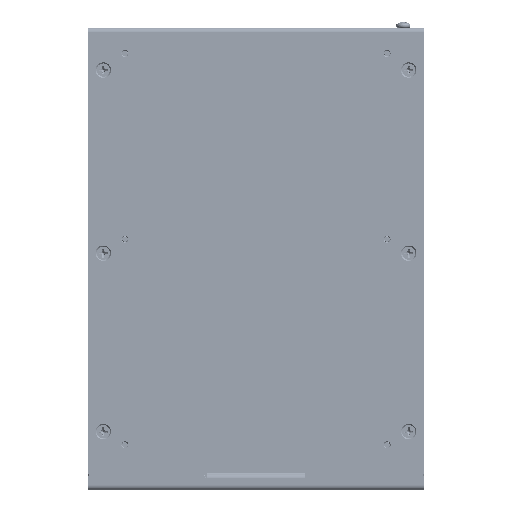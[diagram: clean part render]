
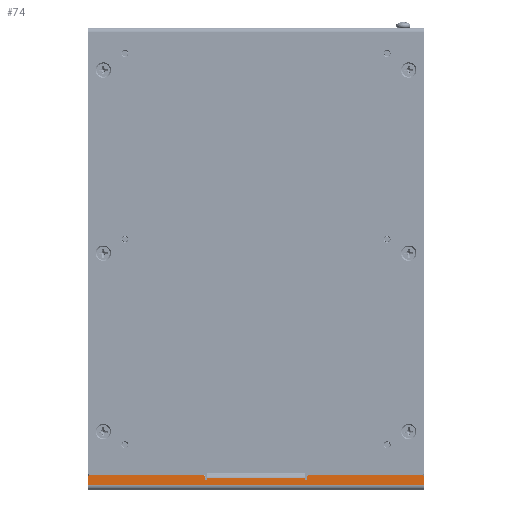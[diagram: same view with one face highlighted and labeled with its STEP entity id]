
A CAD part, front view. The second image highlights one B-rep face of the part: STEP entity #74.
In plain terms, the highlighted planar face has unit normal (0, -1, 0).
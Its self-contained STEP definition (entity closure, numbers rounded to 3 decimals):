
#74 = ADVANCED_FACE ( 'NONE', ( #34024 ), #25106, .T. ) ;
#230 = CIRCLE ( 'NONE', #24326, 0.5 ) ;
#478 = CARTESIAN_POINT ( 'NONE',  ( 17.5, -28.67, 73.02 ) ) ;
#753 = LINE ( 'NONE', #18545, #11067 ) ;
#949 = AXIS2_PLACEMENT_3D ( 'NONE', #28562, #22857, #20064 ) ;
#1539 = AXIS2_PLACEMENT_3D ( 'NONE', #7359, #35521, #21154 ) ;
#1686 = LINE ( 'NONE', #24736, #16684 ) ;
#2332 = ORIENTED_EDGE ( 'NONE', *, *, #35866, .F. ) ;
#2416 = DIRECTION ( 'NONE',  ( 0., -1., 0. ) ) ;
#2685 = CARTESIAN_POINT ( 'NONE',  ( -18.01, -28.67, 77.33 ) ) ;
#2776 = LINE ( 'NONE', #478, #25123 ) ;
#2889 = VECTOR ( 'NONE', #6876, 1000. ) ;
#2907 = ORIENTED_EDGE ( 'NONE', *, *, #9578, .F. ) ;
#3645 = LINE ( 'NONE', #35007, #2889 ) ;
#3838 = CARTESIAN_POINT ( 'NONE',  ( -18.51, -28.67, 76.83 ) ) ;
#3919 = EDGE_CURVE ( 'NONE', #19502, #34585, #14258, .T. ) ;
#4191 = ORIENTED_EDGE ( 'NONE', *, *, #16966, .F. ) ;
#4281 = VERTEX_POINT ( 'NONE', #32244 ) ;
#4399 = CIRCLE ( 'NONE', #30974, 0.5 ) ;
#5083 = CARTESIAN_POINT ( 'NONE',  ( 17.5, -28.67, 78.36 ) ) ;
#5138 = EDGE_CURVE ( 'NONE', #7643, #28586, #1686, .T. ) ;
#5334 = LINE ( 'NONE', #14560, #21566 ) ;
#5382 = LINE ( 'NONE', #28254, #32779 ) ;
#5434 = CARTESIAN_POINT ( 'NONE',  ( 59.5, -28.67, 77.33 ) ) ;
#5637 = DIRECTION ( 'NONE',  ( 0., 0., -1. ) ) ;
#5939 = EDGE_CURVE ( 'NONE', #4281, #32006, #25703, .T. ) ;
#6876 = DIRECTION ( 'NONE',  ( 0., 0., 1. ) ) ;
#7293 = CARTESIAN_POINT ( 'NONE',  ( 17.5, -28.67, 78.36 ) ) ;
#7359 = CARTESIAN_POINT ( 'NONE',  ( 18.51, -28.67, 77.33 ) ) ;
#7402 = ORIENTED_EDGE ( 'NONE', *, *, #24535, .F. ) ;
#7643 = VERTEX_POINT ( 'NONE', #14399 ) ;
#8239 = CARTESIAN_POINT ( 'NONE',  ( -59., -28.67, 76.83 ) ) ;
#8374 = DIRECTION ( 'NONE',  ( 0., 0., 1. ) ) ;
#8734 = CARTESIAN_POINT ( 'NONE',  ( 59., -28.67, 76.83 ) ) ;
#9578 = EDGE_CURVE ( 'NONE', #20855, #34585, #753, .T. ) ;
#9797 = DIRECTION ( 'NONE',  ( -1., 0., 0. ) ) ;
#9920 = CARTESIAN_POINT ( 'NONE',  ( 18.01, -28.67, 77.33 ) ) ;
#9932 = VERTEX_POINT ( 'NONE', #5434 ) ;
#10363 = CARTESIAN_POINT ( 'NONE',  ( 18.01, -28.67, 78.36 ) ) ;
#10421 = VERTEX_POINT ( 'NONE', #5083 ) ;
#10462 = ORIENTED_EDGE ( 'NONE', *, *, #22266, .F. ) ;
#11067 = VECTOR ( 'NONE', #15313, 1000. ) ;
#11070 = ORIENTED_EDGE ( 'NONE', *, *, #5138, .F. ) ;
#11343 = ORIENTED_EDGE ( 'NONE', *, *, #18103, .F. ) ;
#11912 = CARTESIAN_POINT ( 'NONE',  ( -59., -28.67, 77.33 ) ) ;
#12336 = ORIENTED_EDGE ( 'NONE', *, *, #5939, .T. ) ;
#12473 = EDGE_LOOP ( 'NONE', ( #28843, #12336, #15773, #15774, #11343, #11070, #10462, #2332, #20006, #7402, #19829, #13384, #2907, #33896, #4191, #18228 ) ) ;
#13239 = EDGE_CURVE ( 'NONE', #10421, #27178, #2776, .T. ) ;
#13384 = ORIENTED_EDGE ( 'NONE', *, *, #3919, .T. ) ;
#13730 = DIRECTION ( 'NONE',  ( -1., 0., 0. ) ) ;
#14258 = CIRCLE ( 'NONE', #1539, 0.5 ) ;
#14399 = CARTESIAN_POINT ( 'NONE',  ( -17.5, -28.67, 78.36 ) ) ;
#14461 = CARTESIAN_POINT ( 'NONE',  ( 17.5, -28.67, 77.856 ) ) ;
#14560 = CARTESIAN_POINT ( 'NONE',  ( -17.5, -28.67, 73.02 ) ) ;
#15022 = DIRECTION ( 'NONE',  ( 0., 0., 1. ) ) ;
#15313 = DIRECTION ( 'NONE',  ( -1., 0., 0. ) ) ;
#15333 = EDGE_CURVE ( 'NONE', #34496, #32006, #19772, .T. ) ;
#15773 = ORIENTED_EDGE ( 'NONE', *, *, #15333, .F. ) ;
#15774 = ORIENTED_EDGE ( 'NONE', *, *, #24858, .T. ) ;
#15834 = LINE ( 'NONE', #22032, #31549 ) ;
#15974 = LINE ( 'NONE', #7293, #18542 ) ;
#16684 = VECTOR ( 'NONE', #22291, 1000. ) ;
#16966 = EDGE_CURVE ( 'NONE', #21815, #9932, #15834, .T. ) ;
#17338 = EDGE_CURVE ( 'NONE', #21815, #25778, #5382, .T. ) ;
#17709 = CARTESIAN_POINT ( 'NONE',  ( -18.51, -28.67, 77.33 ) ) ;
#17802 = CARTESIAN_POINT ( 'NONE',  ( 18.51, -28.67, 76.83 ) ) ;
#18103 = EDGE_CURVE ( 'NONE', #28586, #32976, #35810, .T. ) ;
#18228 = ORIENTED_EDGE ( 'NONE', *, *, #17338, .T. ) ;
#18542 = VECTOR ( 'NONE', #9797, 1000. ) ;
#18545 = CARTESIAN_POINT ( 'NONE',  ( 59.5, -28.67, 76.83 ) ) ;
#18829 = DIRECTION ( 'NONE',  ( 0., 0., -1. ) ) ;
#19502 = VERTEX_POINT ( 'NONE', #9920 ) ;
#19772 = LINE ( 'NONE', #30724, #25148 ) ;
#19829 = ORIENTED_EDGE ( 'NONE', *, *, #22189, .F. ) ;
#20006 = ORIENTED_EDGE ( 'NONE', *, *, #13239, .F. ) ;
#20064 = DIRECTION ( 'NONE',  ( 0., 0., -1. ) ) ;
#20855 = VERTEX_POINT ( 'NONE', #8734 ) ;
#20990 = VECTOR ( 'NONE', #15022, 1000. ) ;
#21013 = EDGE_CURVE ( 'NONE', #4281, #25778, #29580, .T. ) ;
#21154 = DIRECTION ( 'NONE',  ( 0., 0., -1. ) ) ;
#21566 = VECTOR ( 'NONE', #8374, 1000. ) ;
#21815 = VERTEX_POINT ( 'NONE', #28926 ) ;
#22032 = CARTESIAN_POINT ( 'NONE',  ( 59.5, -28.67, 73.02 ) ) ;
#22189 = EDGE_CURVE ( 'NONE', #19502, #35826, #3645, .T. ) ;
#22266 = EDGE_CURVE ( 'NONE', #34704, #7643, #5334, .T. ) ;
#22291 = DIRECTION ( 'NONE',  ( -1., 0., 0. ) ) ;
#22796 = DIRECTION ( 'NONE',  ( 0., 0., -1. ) ) ;
#22857 = DIRECTION ( 'NONE',  ( 0., -1., 0. ) ) ;
#23848 = CARTESIAN_POINT ( 'NONE',  ( -59.5, -28.67, 81. ) ) ;
#24185 = CARTESIAN_POINT ( 'NONE',  ( -59.5, -28.67, 80.4 ) ) ;
#24326 = AXIS2_PLACEMENT_3D ( 'NONE', #17709, #29191, #28811 ) ;
#24535 = EDGE_CURVE ( 'NONE', #35826, #10421, #15974, .T. ) ;
#24641 = CARTESIAN_POINT ( 'NONE',  ( -18.01, -28.67, 73.02 ) ) ;
#24736 = CARTESIAN_POINT ( 'NONE',  ( -17.5, -28.67, 78.36 ) ) ;
#24858 = EDGE_CURVE ( 'NONE', #34496, #32976, #230, .T. ) ;
#25106 = PLANE ( 'NONE',  #949 ) ;
#25123 = VECTOR ( 'NONE', #34316, 1000. ) ;
#25148 = VECTOR ( 'NONE', #28264, 1000. ) ;
#25245 = CARTESIAN_POINT ( 'NONE',  ( 59., -28.67, 77.33 ) ) ;
#25344 = DIRECTION ( 'NONE',  ( -1., 0., 0. ) ) ;
#25605 = DIRECTION ( 'NONE',  ( 0., -1., 0. ) ) ;
#25703 = CIRCLE ( 'NONE', #31801, 0.5 ) ;
#25778 = VERTEX_POINT ( 'NONE', #24185 ) ;
#25967 = CARTESIAN_POINT ( 'NONE',  ( -17.5, -28.67, 77.856 ) ) ;
#26174 = VECTOR ( 'NONE', #18829, 1000. ) ;
#27178 = VERTEX_POINT ( 'NONE', #14461 ) ;
#27769 = CARTESIAN_POINT ( 'NONE',  ( -18.01, -28.67, 78.36 ) ) ;
#27889 = LINE ( 'NONE', #33733, #28529 ) ;
#28254 = CARTESIAN_POINT ( 'NONE',  ( 0., -28.67, 80.4 ) ) ;
#28264 = DIRECTION ( 'NONE',  ( -1., 0., 0. ) ) ;
#28529 = VECTOR ( 'NONE', #13730, 1000. ) ;
#28562 = CARTESIAN_POINT ( 'NONE',  ( 0., -28.67, 0. ) ) ;
#28586 = VERTEX_POINT ( 'NONE', #27769 ) ;
#28811 = DIRECTION ( 'NONE',  ( 0., 0., -1. ) ) ;
#28843 = ORIENTED_EDGE ( 'NONE', *, *, #21013, .F. ) ;
#28926 = CARTESIAN_POINT ( 'NONE',  ( 59.5, -28.67, 80.4 ) ) ;
#29191 = DIRECTION ( 'NONE',  ( 0., -1., 0. ) ) ;
#29580 = LINE ( 'NONE', #23848, #20990 ) ;
#29994 = DIRECTION ( 'NONE',  ( 0., 0., -1. ) ) ;
#30724 = CARTESIAN_POINT ( 'NONE',  ( -18.01, -28.67, 76.83 ) ) ;
#30974 = AXIS2_PLACEMENT_3D ( 'NONE', #25245, #25605, #22796 ) ;
#31549 = VECTOR ( 'NONE', #29994, 1000. ) ;
#31801 = AXIS2_PLACEMENT_3D ( 'NONE', #11912, #2416, #5637 ) ;
#32006 = VERTEX_POINT ( 'NONE', #8239 ) ;
#32244 = CARTESIAN_POINT ( 'NONE',  ( -59.5, -28.67, 77.33 ) ) ;
#32779 = VECTOR ( 'NONE', #25344, 1000. ) ;
#32976 = VERTEX_POINT ( 'NONE', #2685 ) ;
#33733 = CARTESIAN_POINT ( 'NONE',  ( 0., -28.67, 77.856 ) ) ;
#33896 = ORIENTED_EDGE ( 'NONE', *, *, #36565, .T. ) ;
#34024 = FACE_OUTER_BOUND ( 'NONE', #12473, .T. ) ;
#34316 = DIRECTION ( 'NONE',  ( 0., 0., -1. ) ) ;
#34496 = VERTEX_POINT ( 'NONE', #3838 ) ;
#34585 = VERTEX_POINT ( 'NONE', #17802 ) ;
#34704 = VERTEX_POINT ( 'NONE', #25967 ) ;
#35007 = CARTESIAN_POINT ( 'NONE',  ( 18.01, -28.67, 78.36 ) ) ;
#35521 = DIRECTION ( 'NONE',  ( 0., -1., 0. ) ) ;
#35810 = LINE ( 'NONE', #24641, #26174 ) ;
#35826 = VERTEX_POINT ( 'NONE', #10363 ) ;
#35866 = EDGE_CURVE ( 'NONE', #27178, #34704, #27889, .T. ) ;
#36565 = EDGE_CURVE ( 'NONE', #20855, #9932, #4399, .T. ) ;
